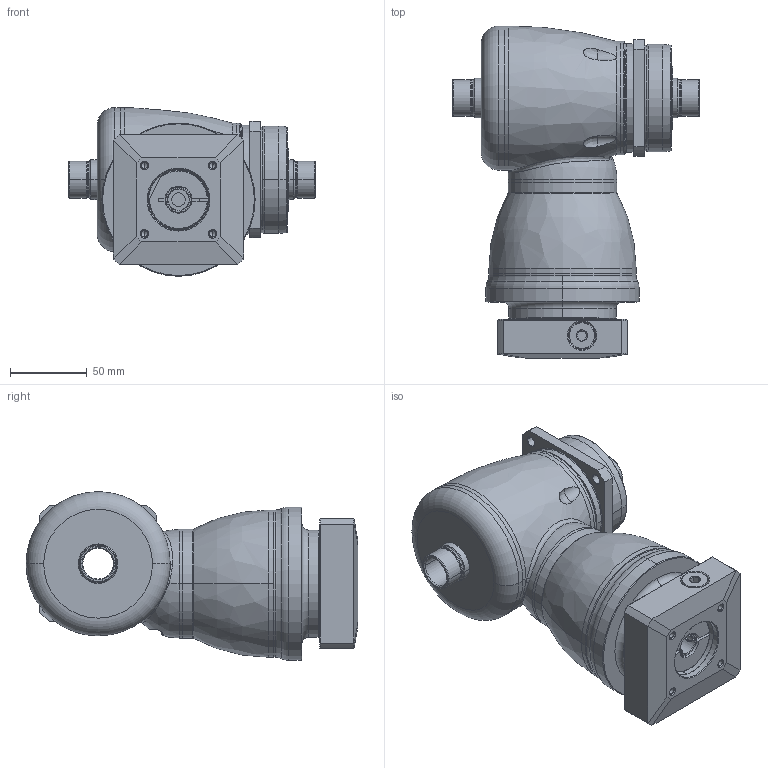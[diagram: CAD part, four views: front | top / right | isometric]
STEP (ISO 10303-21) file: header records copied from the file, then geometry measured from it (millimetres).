
FILE_DESCRIPTION((''),'2;1');
FILE_NAME('KF075_S4_1ST_14-P0409310101_ASM','2016-07-15T',('d01943'),(''),'PRO/ENGINEER BY PARAMETRIC TECHNOLOGY CORPORATION, 2008410','PRO/ENGINEER BY PARAMETRIC TECHNOLOGY CORPORATION, 2008410','');
FILE_SCHEMA(('CONFIG_CONTROL_DESIGN'));
Length unit declared in the file: millimetre
Products named in the file (11): P1008300002; P1804300001; P0914300001; P1315300001; P1007300001; P1318300101; P0409310101; P0503300006; P0912301001; 21711412017; KF075_S4_1ST_14-P0409310101_ASM
Assembly tree (10 placements, depth 2):
  KF075_S4_1ST_14-P0409310101_ASM
    P1008300002
    P1804300001
    P0914300001
    P1315300001
    P1007300001
    P1318300101
    P0409310101
    P0503300006
    P0912301001
    21711412017
Bounding box: 161 x 216.5 x 110 mm (x, y, z)
Volume: 1225865.8 mm3; surface area: 221542.2 mm2
Topology: 11 solids, 11 shells, 504 faces, 1155 edges, 687 vertices
Faces by surface type: cylinder 167, cone 120, plane 90, torus 78, bspline 47, sphere 2
Entity records: 21709 total; most frequent: CARTESIAN_POINT 10288, DIRECTION 2486, ORIENTED_EDGE 2250, EDGE_CURVE 1125, AXIS2_PLACEMENT_3D 1065, VERTEX_POINT 681, CIRCLE 587, EDGE_LOOP 572
